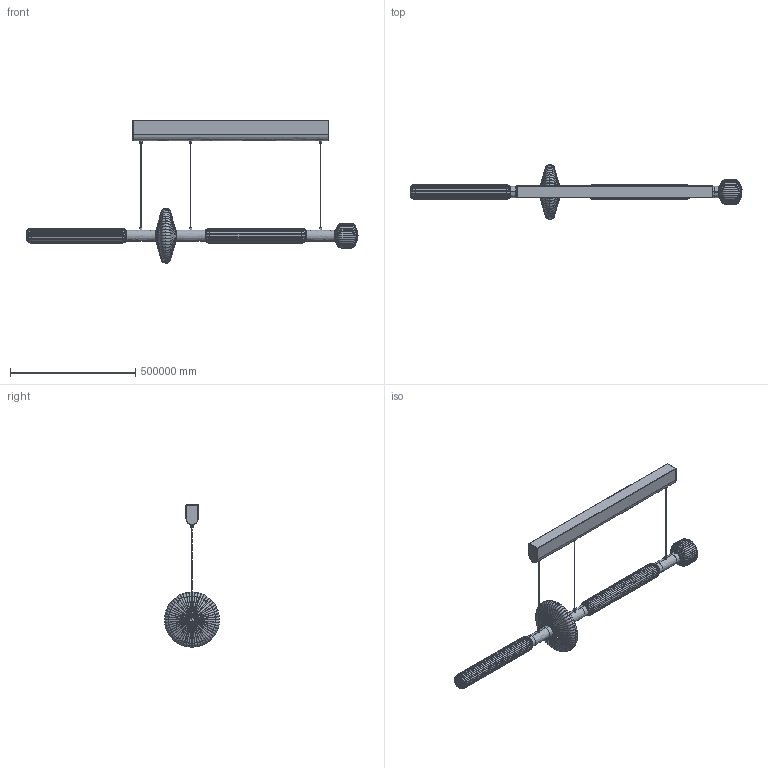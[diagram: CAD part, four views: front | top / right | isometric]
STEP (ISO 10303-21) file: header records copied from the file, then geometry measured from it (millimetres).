
FILE_DESCRIPTION(/* description */ (''),/* implementation_level */ '2;1');
FILE_NAME(/* name */ 'Cipher S',/* time_stamp */ '2019-01-15T17:42:41+01:00',/* author */ (''),/* organization */ (''),/* preprocessor_version */ 'ST-DEVELOPER v15',/* originating_system */ '',/* authorisation */ '');
FILE_SCHEMA (('AUTOMOTIVE_DESIGN'));
Products named in the file (6): Document; Glass side; kování; Glass bottom; Glass middle; Glass disc
Assembly tree (9 placements, depth 3):
  Document
    Glass side
      kování
    Glass bottom
      kování
    Glass middle
      kování
    Glass disc
      kování  x2
Bounding box: 1327435.35 x 219997.72 x 569008.85 mm (x, y, z)
Volume: 1482966022062109 mm3; surface area: 1090013265388.4 mm2
Topology: 26 solids, 26 shells, 1872 faces, 4574 edges, 2741 vertices
Faces by surface type: bspline 1872
Entity records: 163916 total; most frequent: CARTESIAN_POINT 109718, B_SPLINE_CURVE_WITH_KNOTS 9204, ORIENTED_EDGE 8956, PCURVE 8956, DEFINITIONAL_REPRESENTATION 8956, SURFACE_CURVE 4478, EDGE_CURVE 4478, VERTEX_POINT 2693
